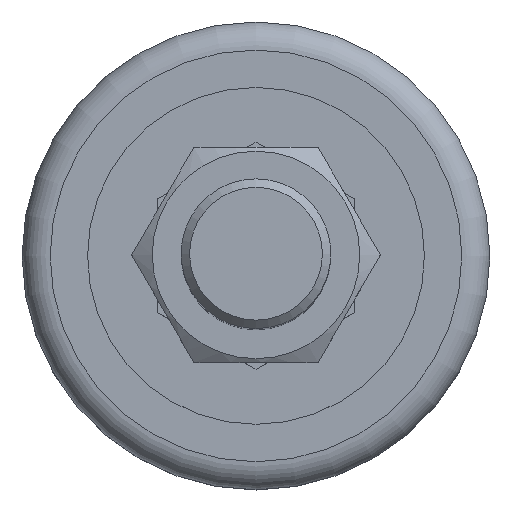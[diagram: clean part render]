
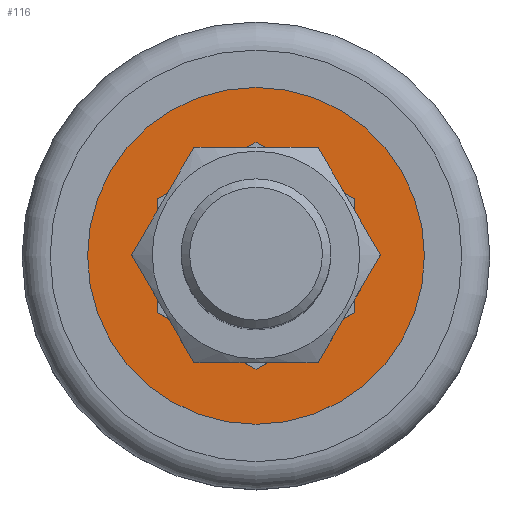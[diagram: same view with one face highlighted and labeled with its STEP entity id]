
A CAD part, top view. The second image highlights one B-rep face of the part: STEP entity #116.
In plain terms, the highlighted planar face has unit normal (0, 0, 1).
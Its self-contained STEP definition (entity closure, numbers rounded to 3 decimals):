
#116=ADVANCED_FACE('',(#227,#228),#229,.T.);
#227=FACE_OUTER_BOUND('',#363,.T.);
#228=FACE_BOUND('',#364,.T.);
#229=PLANE('',#365);
#363=EDGE_LOOP('',(#509));
#364=EDGE_LOOP('',(#510));
#365=AXIS2_PLACEMENT_3D('',#511,#512,#513);
#509=ORIENTED_EDGE('',*,*,#739,.F.);
#510=ORIENTED_EDGE('',*,*,#721,.T.);
#511=CARTESIAN_POINT('',(43.0,25.0,17.2));
#512=DIRECTION('',(0.0,0.,1.0));
#513=DIRECTION('',(0.0,-1.0,0.));
#721=EDGE_CURVE('',#810,#810,#811,.T.);
#739=EDGE_CURVE('',#839,#839,#840,.T.);
#810=VERTEX_POINT('',#942);
#811=CIRCLE('',#943,9.124);
#839=VERTEX_POINT('',#1044);
#840=CIRCLE('',#1045,18.0);
#942=CARTESIAN_POINT('',(34.124,25.0,17.2));
#943=AXIS2_PLACEMENT_3D('',#1289,#1290,#1291);
#1044=CARTESIAN_POINT('',(25.0,43.0,17.2));
#1045=AXIS2_PLACEMENT_3D('',#1299,#1300,#1301);
#1289=CARTESIAN_POINT('',(25.0,25.0,17.2));
#1290=DIRECTION('',(0.,0.0,-1.0));
#1291=DIRECTION('',(1.0,0.0,0.));
#1299=CARTESIAN_POINT('',(25.0,25.0,17.2));
#1300=DIRECTION('',(0.0,0.,-1.0));
#1301=DIRECTION('',(0.0,1.0,0.));
